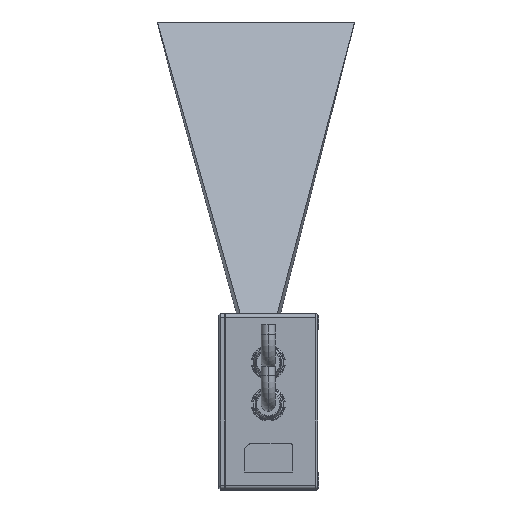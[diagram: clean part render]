
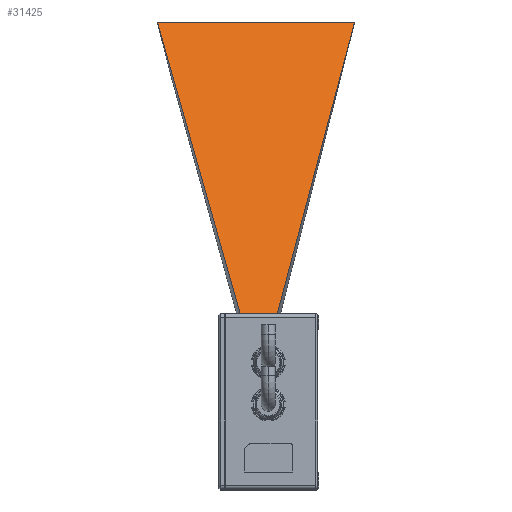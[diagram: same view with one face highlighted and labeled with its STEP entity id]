
A CAD part, left-side view. The second image highlights one B-rep face of the part: STEP entity #31425.
In plain terms, the highlighted planar face has unit normal (-0.887, 0, 0.462).
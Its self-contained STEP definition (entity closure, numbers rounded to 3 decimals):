
#31332=DIRECTION('',(0.448,0.244,0.86));
#31333=VECTOR('',#31332,185.503);
#31334=CARTESIAN_POINT('',(73.027,58.714,
-159.508));
#31335=LINE('',#31334,#31333);
#31336=DIRECTION('',(0.,-1.,0.));
#31337=VECTOR('',#31336,104.);
#31338=CARTESIAN_POINT('',(156.2,104.,0.));
#31339=LINE('',#31338,#31337);
#31340=DIRECTION('',(-0.45,0.229,-0.863));
#31341=VECTOR('',#31340,184.793);
#31342=CARTESIAN_POINT('',(156.2,0.,0.));
#31343=LINE('',#31342,#31341);
#31344=DIRECTION('',(0.,1.,0.));
#31345=VECTOR('',#31344,16.429);
#31346=CARTESIAN_POINT('',(73.027,42.286,
-159.508));
#31347=LINE('',#31346,#31345);
#31372=CARTESIAN_POINT('',(73.027,42.286,
-159.508));
#31373=CARTESIAN_POINT('',(73.027,58.714,
-159.508));
#31374=VERTEX_POINT('',#31372);
#31375=VERTEX_POINT('',#31373);
#31380=CARTESIAN_POINT('',(156.2,104.,0.));
#31381=CARTESIAN_POINT('',(156.2,0.,0.));
#31382=VERTEX_POINT('',#31380);
#31383=VERTEX_POINT('',#31381);
#31411=CARTESIAN_POINT('',(114.614,52.,-79.754));
#31412=DIRECTION('',(0.887,0.,-0.462));
#31413=DIRECTION('',(0.,-1.,0.));
#31414=AXIS2_PLACEMENT_3D('',#31411,#31412,#31413);
#31415=PLANE('',#31414);
#31417=ORIENTED_EDGE('',*,*,#31416,.T.);
#31418=ORIENTED_EDGE('',*,*,#31393,.T.);
#31420=ORIENTED_EDGE('',*,*,#31419,.T.);
#31422=ORIENTED_EDGE('',*,*,#31421,.T.);
#31423=EDGE_LOOP('',(#31417,#31418,#31420,#31422));
#31424=FACE_OUTER_BOUND('',#31423,.F.);
#31393=EDGE_CURVE('',#31382,#31383,#31339,.T.);
#31416=EDGE_CURVE('',#31375,#31382,#31335,.T.);
#31419=EDGE_CURVE('',#31383,#31374,#31343,.T.);
#31421=EDGE_CURVE('',#31374,#31375,#31347,.T.);
#31425=ADVANCED_FACE('',(#31424),#31415,.F.);
